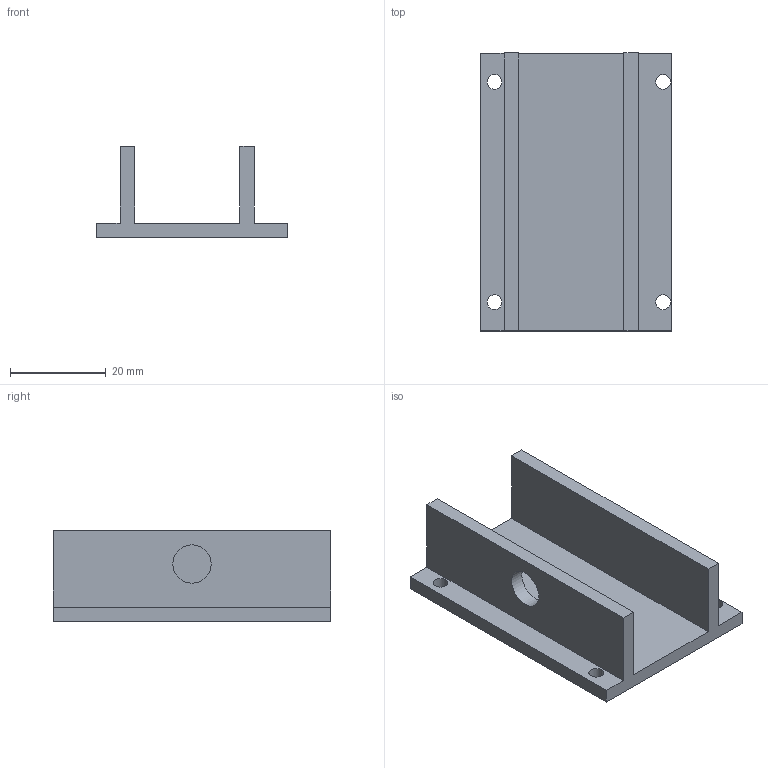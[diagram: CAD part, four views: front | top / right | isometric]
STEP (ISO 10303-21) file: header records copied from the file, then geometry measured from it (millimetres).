
FILE_DESCRIPTION(('Open CASCADE Model'),'2;1');
FILE_NAME('Open CASCADE Shape Model','2026-11-24T19:57:39',('Author'),( 'Open CASCADE'),'Open CASCADE STEP processor 7.8','Open CASCADE 7.8' ,'Unknown');
FILE_SCHEMA(('AUTOMOTIVE_DESIGN { 1 0 10303 214 1 1 1 1 }'));
Length unit declared in the file: millimetre
Products named in the file (1): Open CASCADE STEP translator 7.8 96
Bounding box: 40 x 58 x 19 mm (x, y, z)
Volume: 12286.6 mm3; surface area: 9163.4 mm2
Topology: 1 solids, 1 shells, 19 faces, 51 edges, 34 vertices
Faces by surface type: plane 14, cylinder 5
Full cylindrical faces by diameter (mm): 3.1 x4, 8 x1
Entity records: 1289 total; most frequent: CARTESIAN_POINT 224, DIRECTION 196, LINE 128, VECTOR 128, ORIENTED_EDGE 102, PCURVE 102, DEFINITIONAL_REPRESENTATION 102, EDGE_CURVE 51
